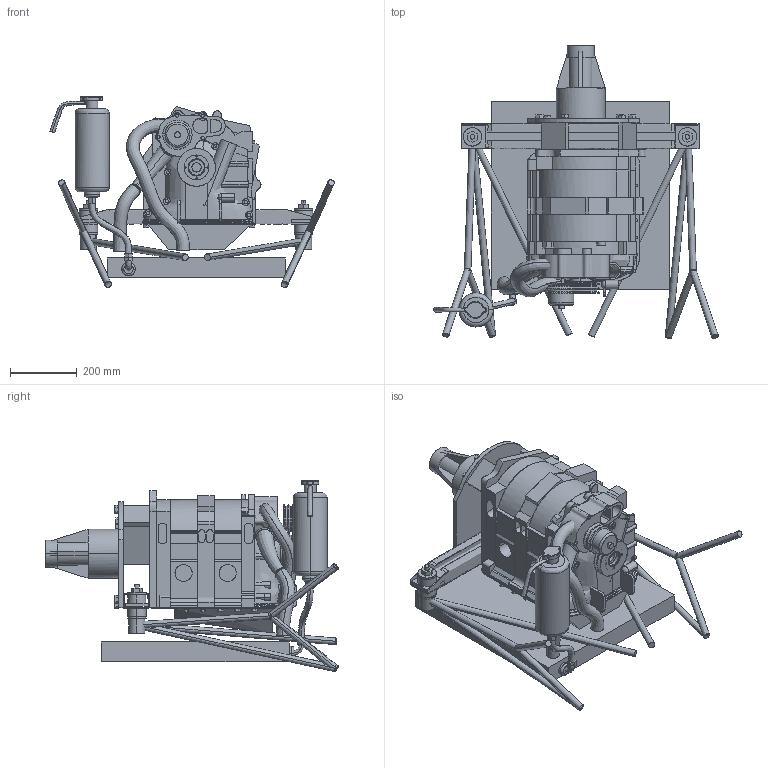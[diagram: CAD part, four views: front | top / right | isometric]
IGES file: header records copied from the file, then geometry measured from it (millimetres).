
Global section: file name: C:\3D-files\Schertz\complete-13B.igs; native system: Rhinoceros ( Nov 11 2003 ); preprocessor: Trout Lake IGES 012 Nov 11 2003; date: 041013.050648; units: inch
Bounding box: 852.72 x 877.64 x 572.66 mm (x, y, z)
Surface area: 4112506.5 mm2 (no closed solid volume)
Topology: 0 solids, 0 shells, 867 faces, 5486 edges, 5495 vertices
Faces by surface type: bspline 867
